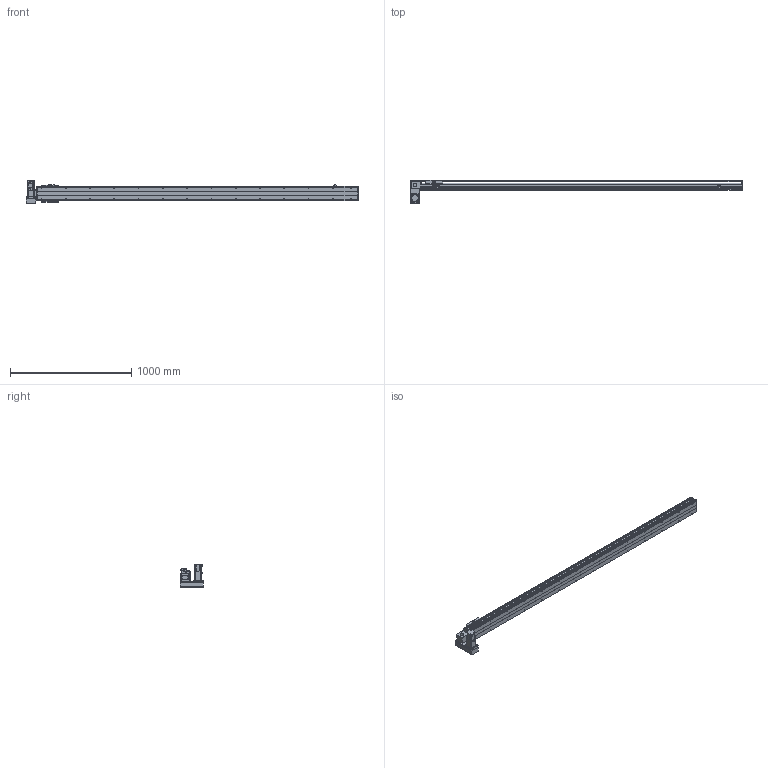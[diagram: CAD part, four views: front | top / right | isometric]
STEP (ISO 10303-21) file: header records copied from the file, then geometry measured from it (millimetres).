
FILE_DESCRIPTION( ( 'STEP AP214' ), '1' );
FILE_NAME( 'x:/temp/worker_6/temp/exporttempdir_3468_16_0oLbI/format_0/PBS120-P40-S2350-LD-T40-C1-N(0).stp', '2022-06-08T08:13:56', ( 'License CC BY-ND 4.0' ), ( 'CADENAS' ), ' ', 'PARTsolutions', ' ' );
FILE_SCHEMA( ( 'AUTOMOTIVE_DESIGN { 1 0 10303 214 1 1 1 1 }' ) );
Length unit declared in the file: millimetre
Products named in the file (7): PBS120-P40-S2350-LD-T40-C1-N(0); _PBS120-S2350()_body; _PBS120T-LD_motors; _T40-p1; _PBS120_sliser; _PBS120_plant; _PBS120_sensor
Assembly tree (8 placements, depth 2):
  PBS120-P40-S2350-LD-T40-C1-N(0)
    _PBS120-S2350()_body
    _PBS120T-LD_motors
    _T40-p1
    _PBS120_sliser
    _PBS120_plant
    _PBS120_sensor  x3
Bounding box: 2736 x 196 x 189.7 mm (x, y, z)
Volume: 10355480.7 mm3; surface area: 2133258.5 mm2
Topology: 8 solids, 8 shells, 864 faces, 2216 edges, 1423 vertices
Faces by surface type: plane 561, cylinder 241, cone 60, torus 2
Full cylindrical faces by diameter (mm): 2.459 x6, 3.242 x4, 4 x2, 4.134 x4, 4.5 x10, 4.917 x32, 5.5 x11, 6 x2, 6.6 x1, 7 x2, 8.5 x4, 9 x4, 12 x1, 14 x1, 30 x2, 40 x1, 50 x2
Entity records: 28332 total; most frequent: DIRECTION 3884, CARTESIAN_POINT 3785, ORIENTED_EDGE 3574, EDGE_CURVE 1787, AXIS2_PLACEMENT_3D 1328, VERTEX_POINT 1229, LINE 1228, VECTOR 1228
